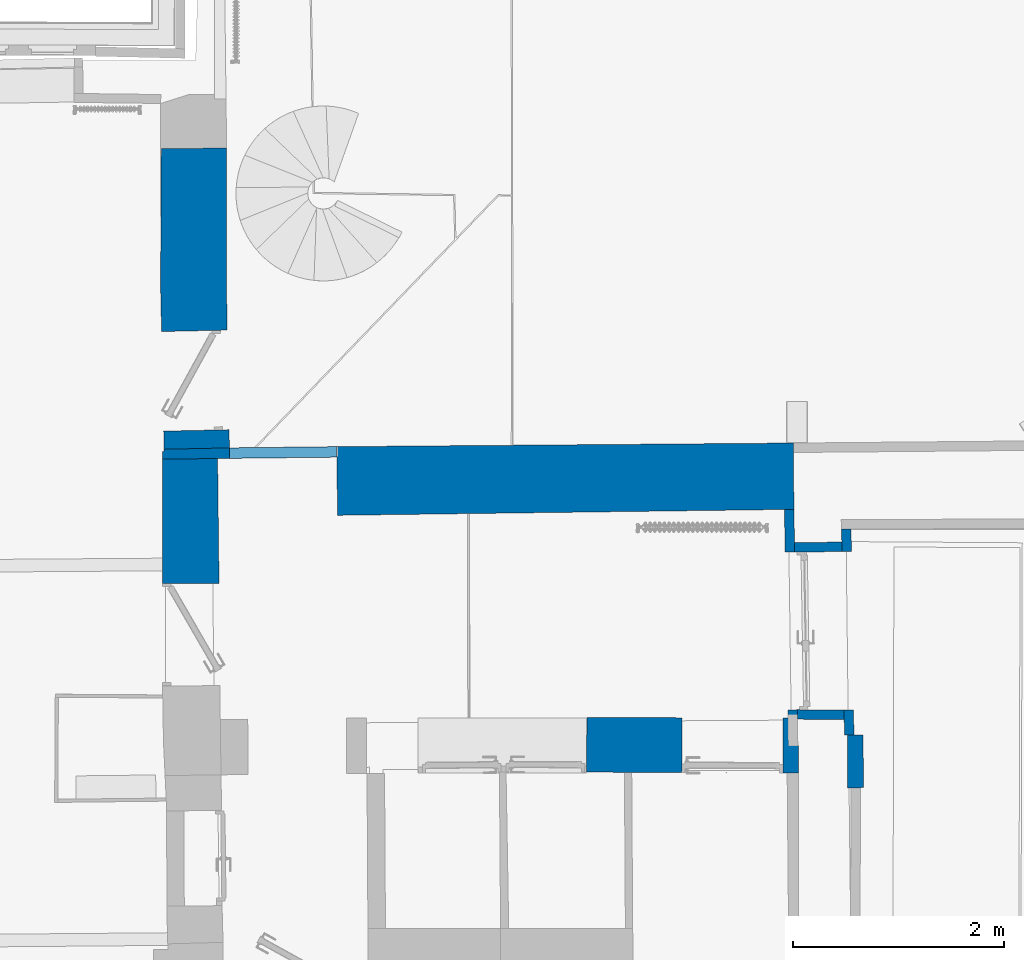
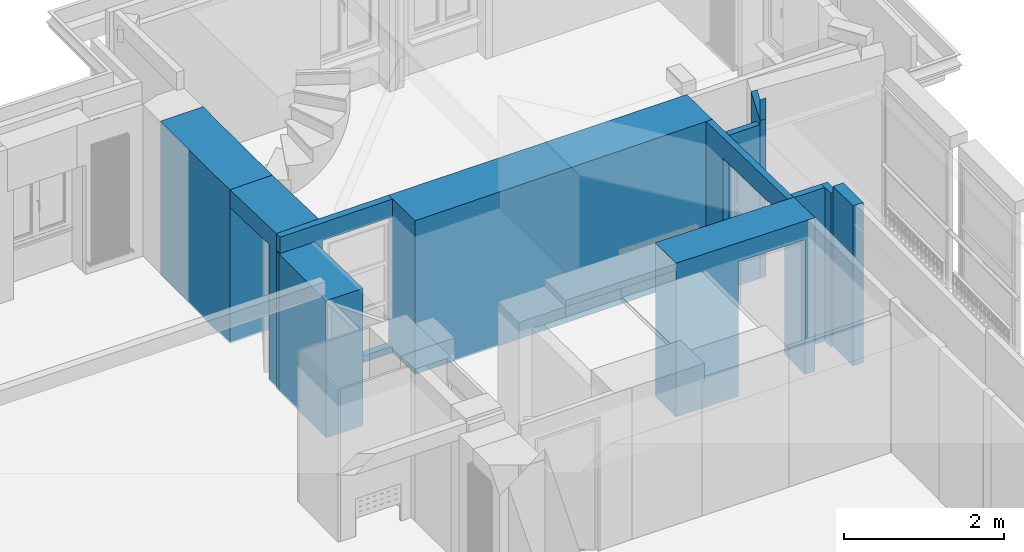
# One storey, part 17 of 72: 12 walls, 4 openings.
"""IFC2X3 building model written with IfcOpenShell, lengths in centimetres."""

from ifc_helpers import new_model, entity, si_unit, converted_unit, direction, frame, origin, origin_with_axes, place, context, subcontext, project, spatial, polyline, outline, extrude, clip, bounded_halfspace, shape, material, layer, layer_set, layer_usage, type_object, element, save


model = new_model("IFC2X3")

# Units and contexts
model_context = context("Model", 3, precision=0.0001, world=origin(), true_north=direction((0.225632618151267, 0.974212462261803, 0.0)))
body_context = subcontext(model_context, "Body", "Model", "MODEL_VIEW")
footprint_context = subcontext(model_context, "FootPrint", "Model", "MODEL_VIEW")
profile_context = subcontext(model_context, "Profile", "Model", "MODEL_VIEW")
ifc_project = project(units=[si_unit("LENGTHUNIT", "METRE", prefix="CENTI"), si_unit("AREAUNIT", "SQUARE_METRE", prefix="CENTI"), si_unit("VOLUMEUNIT", "CUBIC_METRE", prefix="CENTI"), converted_unit("PLANEANGLEUNIT", "DEGREE", entity("IfcRatioMeasure", 0.0174532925), si_unit("PLANEANGLEUNIT", "RADIAN"), dimensions=[0, 0, 0, 0, 0, 0, 0])], contexts=[model_context])

# Site, building, storey
site_placement = place(None, origin_with_axes())
site = spatial("IfcSite", under=ifc_project, at=site_placement, Name="Default Site", CompositionType="ELEMENT")
building_placement = place(site_placement, origin_with_axes())
building = spatial("IfcBuilding", under=site, at=building_placement, Name="Default Building", CompositionType="ELEMENT")
storey_placement = place(building_placement, frame((0.0, 0.0, 853.910374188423), z_axis=(0.0, 0.0, 1.0), x_axis=(1.0, 0.0, 0.0)))
storey = spatial("IfcBuildingStorey", under=building, at=storey_placement, Name="Niveau 2", CompositionType="ELEMENT", Elevation=853.910374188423)

# Walls
ifc_material = material(Name="<aucun>")
ifc_layer_1 = layer(ifc_material, 9.0)
ifc_layer_set_1 = layer_set([ifc_layer_1], Name="default")
ifc_layer_usage_1 = layer_usage(ifc_layer_set_1, "AXIS2", "POSITIVE", -4.5)
wall_type_1 = type_object("IfcWallType", Name="default 90", PredefinedType="NOTDEFINED", material=ifc_layer_set_1)
wall_1_placement = place(storey_placement, frame((885.473306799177, -44.277479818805, 8.5265128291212e-12), z_axis=(0.0, 0.0, 1.0), x_axis=(-0.00971328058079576, 0.999952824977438, 0.0)))
element("IfcWallStandardCase", 1, at=wall_1_placement, inside=storey, type_object=wall_type_1, material=ifc_layer_usage_1, Name="Enveloppe 733954", context=body_context, shape_type="SweptSolid", body=[
    extrude(outline(polyline([(23.8899989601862, 4.50000000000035), (0.0768094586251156, 4.50000000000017), (0.0768094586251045, -4.49999999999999), (23.7548782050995, -4.49999999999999), (23.8899989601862, 4.50000000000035)])), frame((0.0, 0.0, -8.17124146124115e-12), z_axis=(0.0, 0.0, 1.0), x_axis=(1.0, 0.0, 0.0)), (0.0, 0.0, 1.0), 234.999999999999),
])
ifc_layer_usage_2 = layer_usage(ifc_layer_set_1, "AXIS2", "POSITIVE", -4.5)
wall_2_placement = place(storey_placement, frame((889.716155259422, -24.9799368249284, 8.5265128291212e-12), z_axis=(0.0, 0.0, 1.0), x_axis=(-0.999985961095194, 0.00529883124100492, 0.0)))
element("IfcWallStandardCase", 2, at=wall_2_placement, inside=storey, type_object=wall_type_1, material=ifc_layer_usage_2, Name="Enveloppe 734085", context=body_context, shape_type="SweptSolid", body=[
    extrude(outline(polyline([(53.514157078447, -4.49999999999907), (53.337303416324, 3.61709485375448), (53.3180673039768, 3.61699292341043), (53.3180668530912, 4.50000000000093), (8.86353675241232, 4.50000000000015), (8.99865750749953, -4.49999999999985), (53.514157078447, -4.49999999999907)])), frame((0.0, 0.0, -7.46069872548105e-12), z_axis=(0.0, 0.0, 1.0), x_axis=(1.0, 0.0, 0.0)), (0.0, 0.0, 1.0), 234.999999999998),
])
ifc_layer_usage_3 = layer_usage(ifc_layer_set_1, "AXIS2", "POSITIVE", -4.5)
wall_3_placement = place(storey_placement, frame((883.282331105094, 129.833958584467, 8.17124146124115e-12), z_axis=(0.0, 0.0, 1.0), x_axis=(-0.026930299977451, 0.999637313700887, 0.0)))
solid = clip(clip(clip(clip(clip(clip(clip(clip(extrude(outline(polyline([(21.7134192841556, 4.49999999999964), (0.0, 4.49999999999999), (0.0, -4.49999999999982), (21.4914124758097, -4.50000000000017), (21.7134192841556, 4.49999999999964)])), origin_with_axes(), (0.0, 0.0, 1.0), 273.229799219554), bounded_halfspace(frame((0.0, 4.49999999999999, 234.999999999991), z_axis=(0.0, 0.0, 1.0), x_axis=(1.0, -3.98032301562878e-13, 0.0)), True, frame((0.0, 4.49999999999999, 234.999999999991), z_axis=(0.0, 0.0, 1.0), x_axis=(1.0, 0.0, 0.0)), polyline([(0.0, -8.99999999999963), (0.0, 0.0), (0.185257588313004, 1.77635683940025e-13), (0.0, -8.99999999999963)]))), bounded_halfspace(frame((8.59711202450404, 4.49999999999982, 253.970055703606), z_axis=(0.826470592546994, 0.0123425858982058, -0.562844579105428), x_axis=(0.56297571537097, -0.01426775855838, 0.82635027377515)), True, frame((8.59711202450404, 4.49999999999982, 253.970055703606), z_axis=(0.0, 0.0, 1.0), x_axis=(1.0, 0.0, 0.0)), polyline([(-8.45678498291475, -2.2415853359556), (-0.0503980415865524, -2.45463235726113), (0.0, 0.0), (-8.41185443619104, 3.5527136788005e-13), (-8.45678498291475, -2.2415853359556)]))), bounded_halfspace(frame((9.79589629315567, 4.49999999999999, 255.730328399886), z_axis=(0.826470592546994, 0.0123425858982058, -0.562844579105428), x_axis=(0.56297642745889, -0.0216269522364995, 0.826189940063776)), True, frame((9.79589629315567, 4.49999999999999, 255.730328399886), z_axis=(0.0, 0.0, 1.0), x_axis=(1.0, 0.0, 0.0)), polyline([(-1.24829383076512, -2.41135903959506), (-0.674860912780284, -2.43338768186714), (2.22044604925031e-14, 1.77635683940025e-13), (-1.19878426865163, -1.77635683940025e-13), (-1.24829383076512, -2.41135903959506)]))), bounded_halfspace(frame((7.43928421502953, -3.99738174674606, 252.083584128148), z_axis=(0.826470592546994, 0.0123425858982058, -0.562844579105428), x_axis=(0.562887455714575, -5.81826253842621e-15, 0.826533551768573)), True, frame((7.43928421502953, -3.99738174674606, 252.083584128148), z_axis=(0.0, 0.0, 1.0), x_axis=(1.0, 0.0, 0.0)), polyline([(-7.43928421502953, -0.502618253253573), (-0.139393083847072, -0.502618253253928), (0.0, 0.0), (-7.41637764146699, 0.397688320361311), (-7.43928421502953, -0.502618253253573)]))), bounded_halfspace(frame((9.12103538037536, 2.06661231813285, 254.686013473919), z_axis=(0.826470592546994, 0.0123425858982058, -0.562844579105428), x_axis=(0.246961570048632, 0.890484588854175, 0.382161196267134)), True, frame((9.12103538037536, 2.06661231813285, 254.686013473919), z_axis=(0.0, 0.0, 1.0), x_axis=(1.0, 0.0, 0.0)), polyline([(-9.09812880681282, -5.66630574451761), (-1.68175116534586, -6.06399406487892), (0.0, 1.77635683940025e-13), (-0.573432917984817, 0.0220286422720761), (-0.574321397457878, -0.021244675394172), (-8.98070833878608, 0.191802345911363), (-9.09812880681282, -5.66630574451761)]))), bounded_halfspace(frame((21.7134192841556, 4.49999999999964, 273.229799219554), z_axis=(0.826470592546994, 0.0123425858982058, -0.562844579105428), x_axis=(-0.562887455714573, 4.03323208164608e-15, -0.826533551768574)), True, frame((21.7134192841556, 4.49999999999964, 273.229799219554), z_axis=(0.0, 0.0, 1.0), x_axis=(1.0, 0.0, 0.0)), polyline([(-11.5655786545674, -2.47283279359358), (-0.0718899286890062, -2.91436719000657), (0.0, 0.0), (-10.8797782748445, 1.77635683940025e-13), (-11.5655786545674, -2.47283279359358)]))), bounded_halfspace(frame((10.8336410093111, 4.49999999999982, 257.254133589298), z_axis=(0.826470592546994, 0.0123425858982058, -0.562844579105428), x_axis=(-0.562887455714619, 7.16631615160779e-14, -0.826533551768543)), True, frame((10.8336410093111, 4.49999999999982, 257.254133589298), z_axis=(0.0, 0.0, 1.0), x_axis=(1.0, 0.0, 0.0)), polyline([(-1.71260562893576, -2.43338768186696), (-0.685800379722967, -2.47283279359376), (0.0, 0.0), (-1.03774471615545, 3.5527136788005e-13), (-1.71260562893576, -2.43338768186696)]))), bounded_halfspace(frame((16.812470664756, -4.49999999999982, 265.835976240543), z_axis=(0.826470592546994, 0.0123425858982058, -0.562844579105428), x_axis=(-0.246961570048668, -0.890484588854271, -0.382161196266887)), True, frame((16.812470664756, -4.49999999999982, 265.835976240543), z_axis=(0.0, 0.0, 1.0), x_axis=(1.0, 0.0, 0.0)), polyline([(-8.47483481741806, 0.0), (0.0, 1.77635683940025e-13), (-8.3506483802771, 0.447786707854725), (-8.47483481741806, 0.0)])))
element("IfcWallStandardCase", 3, at=wall_3_placement, inside=storey, type_object=wall_type_1, material=ifc_layer_usage_3, Name="Enveloppe 733688", context=body_context, shape_type="Clipping", body=[
    clip(clip(clip(clip(solid, bounded_halfspace(frame((8.46182228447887, -4.05221329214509, 253.583857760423), z_axis=(0.826470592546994, 0.0123425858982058, -0.562844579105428), x_axis=(-0.562938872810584, 0.0301864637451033, -0.825947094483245)), True, frame((8.46182228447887, -4.05221329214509, 253.583857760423), z_axis=(0.0, 0.0, 1.0), x_axis=(1.0, 0.0, 0.0)), polyline([(-1.16193115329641, -0.447786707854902), (-0.124186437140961, -0.447786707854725), (0.0, 0.0), (-1.02253806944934, 0.0548315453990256), (-1.16193115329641, -0.447786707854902)]))), bounded_halfspace(frame((21.6415293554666, 1.58563280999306, 273.060328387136), z_axis=(0.826470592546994, 0.0123425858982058, -0.562844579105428), x_axis=(0.0246183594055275, 0.998010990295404, 0.0580344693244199)), True, frame((21.6415293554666, 1.58563280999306, 273.060328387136), z_axis=(0.0, 0.0, 1.0), x_axis=(1.0, 0.0, 0.0)), polyline([(-13.1797070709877, -5.63784610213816), (-4.82905869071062, -6.0856328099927), (-0.150116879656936, -6.08563280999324), (2.22044604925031e-14, 0.0), (-11.4936887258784, 0.44153439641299), (-13.1797070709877, -5.63784610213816)]))), bounded_halfspace(frame((10.1478406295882, 2.02716720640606, 256.192890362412), z_axis=(0.826470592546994, 0.0123425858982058, -0.562844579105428), x_axis=(-0.562976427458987, 0.0216269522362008, -0.826189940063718)), True, frame((10.1478406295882, 2.02716720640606, 256.192890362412), z_axis=(0.0, 0.0, 1.0), x_axis=(1.0, 0.0, 0.0)), polyline([(-2.70855641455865, -6.02454895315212), (-1.68601834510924, -6.07938049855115), (0.0, 0.0), (-1.02680524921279, 0.0394451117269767), (-2.70855641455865, -6.02454895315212)]))), bounded_halfspace(frame((0.185257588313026, 4.49999999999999, 241.618243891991), z_axis=(0.826470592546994, 0.0123425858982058, -0.562844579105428), x_axis=(0.0253902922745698, 0.997925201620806, 0.0591660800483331)), True, frame((0.185257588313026, 4.49999999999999, 241.618243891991), z_axis=(0.0, 0.0, 1.0), x_axis=(1.0, 0.0, 0.0)), polyline([(-0.185257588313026, -8.99999999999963), (-2.22044604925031e-14, 1.77635683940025e-13), (-0.185257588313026, 0.0), (-0.185257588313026, -8.99999999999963)]))),
])
ifc_layer_usage_4 = layer_usage(ifc_layer_set_1, "AXIS2", "POSITIVE", -4.5)
wall_4_placement = place(storey_placement, frame((833.72609030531, 134.087553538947, 8.5265128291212e-12), z_axis=(0.0, 0.0, 1.0), x_axis=(0.999976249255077, 0.00689209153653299, 0.0)))
element("IfcWallStandardCase", 4, at=wall_4_placement, inside=storey, type_object=wall_type_1, material=ifc_layer_usage_4, Name="Enveloppe 733843", context=body_context, shape_type="SweptSolid", body=[
    extrude(outline(polyline([(-0.0863428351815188, 4.49999999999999), (0.0, -4.50000000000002), (45.0229387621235, -4.49999999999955), (44.8425419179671, 4.50000000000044), (-0.0863428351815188, 4.49999999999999)])), origin_with_axes(), (0.0, 0.0, 1.0), 234.999999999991),
])

# Wall, opening
ifc_layer_usage_5 = layer_usage(ifc_layer_set_1, "AXIS2", "POSITIVE", -4.5)
wall_5_placement = place(storey_placement, frame((831.799788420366, -24.6730434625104, 1.4210854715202e-12), z_axis=(0.0, 0.0, 1.0), x_axis=(-0.0164847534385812, 0.99986411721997, 0.0)))
wall_5 = element("IfcWallStandardCase", 5, at=wall_5_placement, inside=storey, type_object=wall_type_1, material=ifc_layer_usage_5, Name="Enveloppe 150052", context=body_context, shape_type="SweptSolid", body=[
    extrude(outline(polyline([(194.686296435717, 4.5000000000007), (163.307890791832, 4.50000000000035), (-3.52779053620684, 4.49999999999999), (-3.71599839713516, -4.49999999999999), (163.307890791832, -4.49999999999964), (194.655560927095, -4.49999999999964), (194.686296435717, 4.5000000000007)])), frame((0.0, 0.0, -1.77635683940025e-13), z_axis=(0.0, 0.0, 1.0), x_axis=(1.0, 0.0, 0.0)), (0.0, 0.0, 1.0), 234.999999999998),
])
opening_1_placement = place(wall_5_placement, frame((4.40302285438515, 1.13686837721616e-13, 5.34683408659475e-13), z_axis=(0.0, 0.0, 1.0), x_axis=(-1.0, -2.18575157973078e-15, 0.0)))
cartesian_point_1 = entity("IfcCartesianPoint", [-1.11022302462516e-14, 0.0, 203.0])
cartesian_point_2 = entity("IfcCartesianPoint", [-149.804453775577, -4.49999999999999])
element("IfcOpeningElement", 6, at=opening_1_placement, cuts=wall_5, Name="4294966408_11", ObjectType="Opening", shapes=[
    shape(body_context, "Body", "SweptSolid", [extrude(outline(polyline([(1.11022302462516e-14, 203.0), (0.0, -1.77635683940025e-13), (149.804453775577, -1.77635683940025e-13), (149.804453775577, 203.0), (1.11022302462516e-14, 203.0)])), frame((0.0, -14.5, 0.0), z_axis=(0.0, 1.0, 0.0), x_axis=(-1.0, 0.0, 0.0)), (0.0, 0.0, 1.0), 29.0)]),
    shape(profile_context, "Profile", "GeometricCurveSet", [entity("IfcGeometricCurveSet", [entity("IfcPolyline", [cartesian_point_1, entity("IfcCartesianPoint", [0.0, 0.0, -1.77635683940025e-13]), entity("IfcCartesianPoint", [-149.804453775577, 0.0, -1.77635683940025e-13]), entity("IfcCartesianPoint", [-149.804453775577, 0.0, 203.0]), cartesian_point_1])])]),
    shape(footprint_context, "FootPrint", "GeometricCurveSet", [entity("IfcGeometricCurveSet", [entity("IfcPolyline", [cartesian_point_2, entity("IfcCartesianPoint", [0.0, -4.49999999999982]), entity("IfcCartesianPoint", [-5.55111512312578e-15, 4.49999999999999]), entity("IfcCartesianPoint", [-149.804453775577, 4.49999999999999]), cartesian_point_2])])]),
])

ifc_layer_2 = layer(ifc_material, 10.0)
ifc_layer_set_2 = layer_set([ifc_layer_2], Name="default")
ifc_layer_usage_6 = layer_usage(ifc_layer_set_2, "AXIS2", "POSITIVE", -5.0)
wall_type_2 = type_object("IfcWallType", Name="default 100", PredefinedType="NOTDEFINED", material=ifc_layer_set_2)
wall_6_placement = place(storey_placement, frame((285.889365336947, 223.276902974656, 1.4210854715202e-12), z_axis=(0.0, 0.0, 1.0), x_axis=(0.999935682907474, 0.0113415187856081, 0.0)))
wall_6 = element("IfcWallStandardCase", 7, at=wall_6_placement, inside=storey, type_object=wall_type_2, material=ifc_layer_usage_6, Name="Enveloppe 151906", context=body_context, shape_type="Clipping", body=[
    clip(extrude(outline(polyline([(-52.07706725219, -5.00000000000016), (113.116214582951, -4.99999999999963), (113.116214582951, 5.00000000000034), (11.3568539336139, 5.00000000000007), (-50.639868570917, 4.36250592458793), (-50.6162602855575, 2.0665844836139), (-51.9967387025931, 2.08224221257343), (-52.07706725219, -5.00000000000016)])), origin_with_axes(), (0.0, 0.0, 1.0), 234.999999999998), bounded_halfspace(frame((-51.9966479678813, 2.0822588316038, 209.999999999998), z_axis=(0.0, 0.0, -1.0), x_axis=(-0.0113543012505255, -0.999935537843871, 0.0)), True, frame((-51.9966479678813, 2.0822588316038, 209.999999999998), z_axis=(0.0, 0.0, 1.0), x_axis=(1.0, 0.0, 0.0)), polyline([(-0.0804192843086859, -7.082258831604), (1.45305129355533, -7.08225883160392), (1.38038768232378, -0.0156743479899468), (0.0, 0.0), (-0.0804192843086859, -7.082258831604)]))),
])
opening_2_placement = place(wall_6_placement, frame((11.3568539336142, 2.8421709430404e-14, 9.99999999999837), z_axis=(0.0, 0.0, 1.0), x_axis=(1.0, 3.4035274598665e-15, 0.0)))
cartesian_point_3 = entity("IfcCartesianPoint", [-4.44089209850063e-14, 0.0, 198.0])
cartesian_point_4 = entity("IfcCartesianPoint", [103.100091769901, 4.99999999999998])
element("IfcOpeningElement", 8, at=opening_2_placement, cuts=wall_6, Name="4294966439_11", ObjectType="Opening", shapes=[
    shape(body_context, "Body", "SweptSolid", [extrude(outline(polyline([(0.0, 198.0), (4.44089209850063e-14, 0.0), (103.100091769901, 0.0), (103.100091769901, 198.0), (0.0, 198.0)])), frame((0.0, 15.0, 0.0), z_axis=(0.0, -1.0, 0.0), x_axis=(1.0, 0.0, 0.0)), (0.0, 0.0, 1.0), 30.0)]),
    shape(profile_context, "Profile", "GeometricCurveSet", [entity("IfcGeometricCurveSet", [entity("IfcPolyline", [cartesian_point_3, entity("IfcCartesianPoint", [0.0, 0.0, 0.0]), entity("IfcCartesianPoint", [103.100091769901, -4.44089209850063e-14, 0.0]), entity("IfcCartesianPoint", [103.100091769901, -4.44089209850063e-14, 198.0]), cartesian_point_3])])]),
    shape(footprint_context, "FootPrint", "GeometricCurveSet", [entity("IfcGeometricCurveSet", [entity("IfcPolyline", [cartesian_point_4, entity("IfcCartesianPoint", [0.0, 4.99999999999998]), entity("IfcCartesianPoint", [-8.88178419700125e-14, -5.00000000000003]), entity("IfcCartesianPoint", [103.100091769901, -5.00000000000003]), cartesian_point_4])])]),
])

# Wall
ifc_layer_3 = layer(ifc_material, 15.0)
ifc_layer_set_3 = layer_set([ifc_layer_3], Name="default")
ifc_layer_usage_7 = layer_usage(ifc_layer_set_3, "AXIS2", "POSITIVE", -7.5)
wall_type_3 = type_object("IfcWallType", Name="default 150", PredefinedType="NOTDEFINED", material=ifc_layer_set_3)
wall_7_placement = place(storey_placement, frame((891.564165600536, -94.2536121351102, -1.95399252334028e-11), z_axis=(0.0, 0.0, 1.0), x_axis=(-0.00597783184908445, 0.99998213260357, 0.0)))
element("IfcWallStandardCase", 9, at=wall_7_placement, inside=storey, type_object=wall_type_3, material=ifc_layer_usage_7, Name="Enveloppe 461114", context=body_context, shape_type="Clipping", body=[
    clip(extrude(outline(polyline([(49.9948439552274, 10.2927157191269), (50.005271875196, 7.50045914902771), (2.31547260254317e-06, 7.50038733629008), (1.11022302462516e-14, 4.06942900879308), (-0.109156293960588, -4.92990901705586), (3.33066907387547e-14, -4.93123301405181), (3.33066907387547e-14, -7.49999999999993), (50.0054484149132, -7.50000107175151), (50.0052723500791, 1.29248441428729), (50.1052684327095, 1.29231938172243), (50.0716484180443, 10.2922565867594), (49.9948439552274, 10.2927157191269)])), frame((0.0, 0.0, 1.98951966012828e-11), z_axis=(0.0, 0.0, 1.0), x_axis=(1.0, 0.0, 0.0)), (0.0, 0.0, 1.0), 244.999999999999), bounded_halfspace(frame((50.1052684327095, 1.29231938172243, 235.000000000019), z_axis=(0.0, 0.0, -1.0), x_axis=(-0.0037355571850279, 0.999993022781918, 0.0)), True, frame((50.1052684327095, 1.29231938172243, 235.000000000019), z_axis=(0.0, 0.0, 1.0), x_axis=(1.0, 0.0, 0.0)), polyline([(-0.110428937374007, 8.99965027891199), (-0.0999993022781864, -0.000373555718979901), (2.22044604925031e-14, 0.0), (-0.0336200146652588, 8.99993720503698), (-0.110428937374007, 8.99965027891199)]))),
])

# Wall, opening
ifc_layer_4 = layer(ifc_material, 62.0)
ifc_layer_set_4 = layer_set([ifc_layer_4], Name="default")
ifc_layer_usage_8 = layer_usage(ifc_layer_set_4, "AXIS2", "POSITIVE", -31.0)
wall_type_4 = type_object("IfcWallType", Name="default 620", PredefinedType="NOTDEFINED", material=ifc_layer_set_4)
wall_8_placement = place(storey_placement, frame((266.196028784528, 227.735090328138, 1.4210854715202e-12), z_axis=(0.0, 0.0, 1.0), x_axis=(-0.0216224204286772, 0.999766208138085, 0.0)))
wall_8 = element("IfcWallStandardCase", 10, at=wall_8_placement, inside=storey, type_object=wall_type_4, material=ifc_layer_usage_8, Name="Enveloppe 177519", context=body_context, shape_type="SweptSolid", body=[
    extrude(outline(polyline([(111.792863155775, 31.0), (8.88178419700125e-14, 31.0000000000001), (4.44089209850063e-14, -30.9999999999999), (112.636040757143, -30.9999999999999), (111.792863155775, -30.9773120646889), (111.792863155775, 31.0)])), origin_with_axes(), (0.0, 0.0, 1.0), 234.999999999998),
])
opening_3_placement = place(wall_8_placement, frame((17.2318881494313, -5.6843418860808e-14, 3.5527136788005e-13), z_axis=(0.0, 0.0, 1.0), x_axis=(1.0, -4.37150315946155e-16, 0.0)))
cartesian_point_5 = entity("IfcCartesianPoint", [0.0, 0.0, 208.0])
cartesian_point_6 = entity("IfcCartesianPoint", [94.5609750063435, 31.0])
element("IfcOpeningElement", 11, at=opening_3_placement, cuts=wall_8, Name="4294966376_11", ObjectType="Opening", shapes=[
    shape(body_context, "Body", "SweptSolid", [extrude(outline(polyline([(4.44089209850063e-14, 208.0), (4.44089209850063e-14, 0.0), (94.5609750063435, 0.0), (94.5609750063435, 208.0), (4.44089209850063e-14, 208.0)])), frame((0.0, 41.0, 0.0), z_axis=(0.0, -1.0, 0.0), x_axis=(1.0, 0.0, 0.0)), (0.0, 0.0, 1.0), 82.0000000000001)]),
    shape(profile_context, "Profile", "GeometricCurveSet", [entity("IfcGeometricCurveSet", [entity("IfcPolyline", [cartesian_point_5, entity("IfcCartesianPoint", [0.0, 0.0, 0.0]), entity("IfcCartesianPoint", [94.5609750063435, -4.44089209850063e-14, 0.0]), entity("IfcCartesianPoint", [94.5609750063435, -4.44089209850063e-14, 208.0]), cartesian_point_5])])]),
    shape(footprint_context, "FootPrint", "GeometricCurveSet", [entity("IfcGeometricCurveSet", [entity("IfcPolyline", [cartesian_point_6, entity("IfcCartesianPoint", [0.0, 31.0]), entity("IfcCartesianPoint", [0.0, -30.9999999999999]), entity("IfcCartesianPoint", [94.5609750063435, -30.9999999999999]), cartesian_point_6])])]),
])

# Walls
ifc_layer_usage_9 = layer_usage(ifc_layer_set_4, "AXIS2", "POSITIVE", -31.0)
wall_9_placement = place(storey_placement, frame((262.599868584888, 338.674191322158, 1.4210854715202e-12), z_axis=(0.0, 0.0, 1.0), x_axis=(0.00527703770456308, 0.999986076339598, 0.0)))
element("IfcWallStandardCase", 12, at=wall_9_placement, inside=storey, type_object=wall_type_4, material=ifc_layer_usage_9, Name="Enveloppe 151022", context=body_context, shape_type="SweptSolid", body=[
    extrude(outline(polyline([(44.0677629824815, 31.0), (0.0, 29.8142396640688), (1.66706098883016, -32.1406481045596), (128.775161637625, -31.0000000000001), (174.585472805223, -31.0000000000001), (173.523516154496, 30.9999999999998), (44.0677629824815, 31.0)])), frame((0.0, 0.0, -7.105427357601e-13), z_axis=(0.0, 0.0, 1.0), x_axis=(1.0, 0.0, 0.0)), (0.0, 0.0, 1.0), 234.999999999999),
])
ifc_layer_5 = layer(ifc_material, 63.0)
ifc_layer_set_5 = layer_set([ifc_layer_5], Name="default")
ifc_layer_usage_10 = layer_usage(ifc_layer_set_5, "AXIS2", "POSITIVE", -31.5)
wall_type_5 = type_object("IfcWallType", Name="default 630", PredefinedType="NOTDEFINED", material=ifc_layer_set_5)
wall_10_placement = place(storey_placement, frame((399.464745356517, 195.864932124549, 1.4210854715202e-12), z_axis=(0.0, 0.0, 1.0), x_axis=(0.999914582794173, 0.0130700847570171, 0.0)))
element("IfcWallStandardCase", 13, at=wall_10_placement, inside=storey, type_object=wall_type_5, material=ifc_layer_usage_10, Name="Enveloppe 150377", context=body_context, shape_type="SweptSolid", body=[
    extrude(outline(polyline([(-0.0827129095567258, 33.6985184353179), (-0.099999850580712, 23.6985333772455), (0.0, 23.6983605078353), (0.0, -31.5000000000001), (433.250882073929, -31.5), (433.247071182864, -26.1534585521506), (433.485807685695, 31.4616853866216), (423.767520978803, 31.5), (-0.0827129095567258, 33.6985184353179)])), origin_with_axes(), (0.0, 0.0, 1.0), 234.999999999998),
])
ifc_layer_6 = layer(ifc_material, 52.0)
ifc_layer_set_6 = layer_set([ifc_layer_6], Name="default")
ifc_layer_usage_11 = layer_usage(ifc_layer_set_6, "AXIS2", "POSITIVE", -26.0)
wall_type_6 = type_object("IfcWallType", Name="default 520", PredefinedType="NOTDEFINED", material=ifc_layer_set_6)
wall_11_placement = place(storey_placement, frame((259.870848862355, 99.8558734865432, 1.4210854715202e-12), z_axis=(0.0, 0.0, 1.0), x_axis=(1.27832880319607e-05, 0.999999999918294, 0.0)))
element("IfcWallStandardCase", 14, at=wall_11_placement, inside=storey, type_object=wall_type_6, material=ifc_layer_usage_11, Name="Enveloppe 150989", context=body_context, shape_type="SweptSolid", body=[
    extrude(outline(polyline([(-7.66997281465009e-05, 25.9999999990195), (4.44089209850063e-14, -27.4309759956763), (118.421691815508, -26.074364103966), (117.830383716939, 26.0004222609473), (-7.66997281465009e-05, 25.9999999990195)])), frame((0.0, 0.0, -1.06581410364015e-12), z_axis=(0.0, 0.0, 1.0), x_axis=(1.0, 0.0, 0.0)), (0.0, 0.0, 1.0), 209.999999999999),
])

# Wall, opening
ifc_layer_usage_12 = layer_usage(ifc_layer_set_6, "AXIS2", "POSITIVE", -26.0)
wall_12_placement = place(storey_placement, frame((827.878665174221, -54.2770910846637, 1.4210854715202e-12), z_axis=(0.0, 0.0, 1.0), x_axis=(-0.999990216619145, 0.00442342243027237, 0.0)))
wall_12 = element("IfcWallStandardCase", 15, at=wall_12_placement, inside=storey, type_object=wall_type_6, material=ifc_layer_usage_12, Name="Enveloppe 150384", context=body_context, shape_type="Clipping", body=[
    clip(clip(extrude(outline(polyline([(191.512194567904, -25.6015551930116), (191.718645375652, -25.6006419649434), (191.512194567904, 13.1851994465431), (191.512195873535, 20.2997048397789), (191.578921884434, 20.2999999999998), (191.578921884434, 25.9999999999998), (152.411725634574, 25.9999999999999), (148.668359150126, 25.9999999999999), (-9.50616932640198, 25.999770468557), (-9.36416591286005, -0.107723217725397), (-8.9083714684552, -0.104346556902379), (-8.38530560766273, -25.1170783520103), (-8.38607815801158, -26.0000850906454), (148.668359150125, -26.0000000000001), (152.411725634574, -26.0000000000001), (191.512194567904, -26.0000000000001), (191.512194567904, -25.6015551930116)])), frame((0.0, 0.0, -3.5527136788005e-13), z_axis=(0.0, 0.0, 1.0), x_axis=(1.0, 0.0, 0.0)), (0.0, 0.0, 1.0), 234.999999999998), bounded_halfspace(frame((191.512194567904, -25.6015551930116, 224.999999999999), z_axis=(0.0, 0.0, 1.0), x_axis=(1.60375185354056e-15, 1.0, 0.0)), True, frame((191.512194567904, -25.6015551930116, 224.999999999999), z_axis=(0.0, 0.0, 1.0), x_axis=(1.0, 0.0, 0.0)), polyline([(8.88178419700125e-14, -1.11022302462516e-14), (1.77635683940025e-13, 38.7867546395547), (0.206449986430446, 0.0010989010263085), (8.88178419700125e-14, -1.11022302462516e-14)]))), bounded_halfspace(frame((191.578921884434, 20.2999999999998, 224.999999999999), z_axis=(0.0, 0.0, -1.0), x_axis=(5.51034912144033e-15, 1.0, 0.0)), True, frame((191.578921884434, 20.2999999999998, 224.999999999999), z_axis=(0.0, 0.0, 1.0), x_axis=(1.0, 0.0, 0.0)), polyline([(-0.134938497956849, 5.7), (-0.0667273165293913, -7.11480055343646), (-0.0667273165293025, 0.0), (8.88178419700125e-14, 0.0), (1.77635683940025e-13, 5.7), (-0.134938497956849, 5.7)]))),
])
opening_4_placement = place(wall_12_placement, frame((5.28558969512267, 0.0, -3.5527136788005e-13), z_axis=(0.0, 0.0, 1.0), x_axis=(-1.0, 7.63278329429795e-16, 0.0)))
cartesian_point_7 = entity("IfcCartesianPoint", [-1.77635683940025e-13, 0.0, 206.0])
cartesian_point_8 = entity("IfcCartesianPoint", [-95.8906461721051, -26.0])
element("IfcOpeningElement", 16, at=opening_4_placement, cuts=wall_12, Name="4294966404_11", ObjectType="Opening", shapes=[
    shape(body_context, "Body", "SweptSolid", [extrude(outline(polyline([(1.77635683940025e-13, 206.0), (1.77635683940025e-13, 0.0), (95.8906461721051, 0.0), (95.8906461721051, 206.0), (1.77635683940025e-13, 206.0)])), frame((0.0, -36.0, 0.0), z_axis=(0.0, 1.0, 0.0), x_axis=(-1.0, 0.0, 0.0)), (0.0, 0.0, 1.0), 72.0)]),
    shape(profile_context, "Profile", "GeometricCurveSet", [entity("IfcGeometricCurveSet", [entity("IfcPolyline", [cartesian_point_7, entity("IfcCartesianPoint", [-1.77635683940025e-13, 0.0, 0.0]), entity("IfcCartesianPoint", [-95.8906461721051, 0.0, 0.0]), entity("IfcCartesianPoint", [-95.8906461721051, 0.0, 206.0]), cartesian_point_7])])]),
    shape(footprint_context, "FootPrint", "GeometricCurveSet", [entity("IfcGeometricCurveSet", [entity("IfcPolyline", [cartesian_point_8, entity("IfcCartesianPoint", [-1.77635683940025e-13, -26.0]), entity("IfcCartesianPoint", [-1.77635683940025e-13, 26.0]), entity("IfcCartesianPoint", [-95.8906461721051, 26.0]), cartesian_point_8])])]),
])

save(model, "model.ifc")
